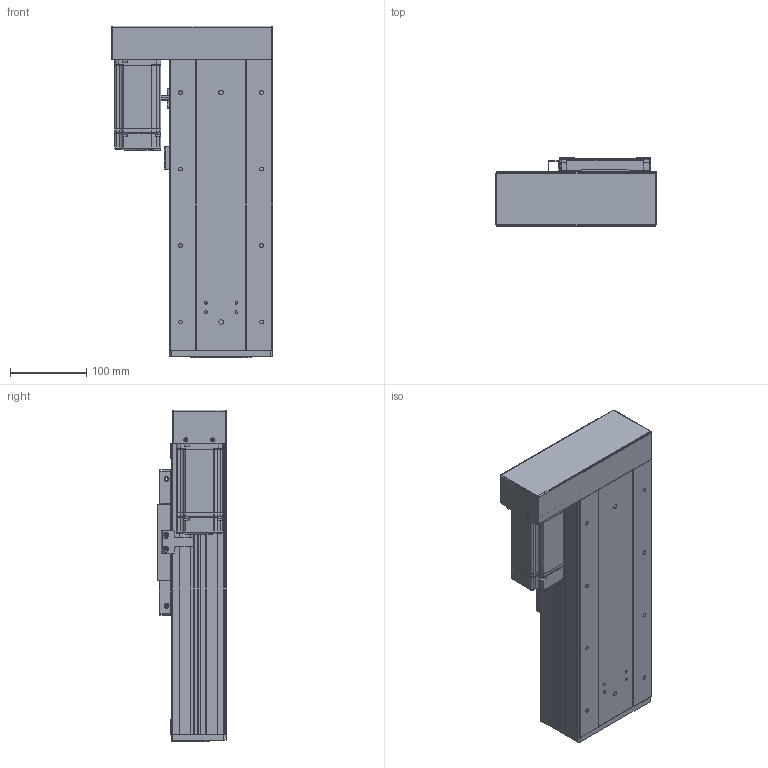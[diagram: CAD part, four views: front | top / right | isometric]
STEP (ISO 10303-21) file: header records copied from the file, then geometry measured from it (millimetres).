
FILE_DESCRIPTION (( 'STEP AP203' ), '1' );
FILE_NAME ('RY140F-L2020-300-LK.SLDASM_100.step', '2021-03-02T08:36:55', ( '盈信电脑' ), ( '东莞市道滘镇水果街19号' ), 'SwSTEP 2.0', 'SolidWorks 2012', '' );
FILE_SCHEMA (( 'CONFIG_CONTROL_DESIGN' ));
Products named in the file (19): RY140F-L2020-300-LK.SLDASM_100; RY140F-酘衵殏萇儂欶(400W); RY140F-左右折电机安装板(400W M5); RY140F-672覜茼んえ; RY140F-詩湍揤え; RY140F-转折折电机座（7001）; 侐源滅袉蝶; 覜茼ん672; RY140F-后盖板(铝件）; 侂狟400W侜督萇儂; 15; RY140F-詩湍幗謫粣; RY100F-詩湍揤踡謫; RY140F-直连型材铝滑块(16丝杆); RY140F-300-LK蛌殏詩湍_100; RY140F-300-LK倰第奻裔啣_100; RY140F-滅鳥奻裔; RY140F-直连型材铝滑块连接座; RY140F-300-LK倰第菁釱_100
Assembly tree (23 placements, depth 3):
  RY140F-L2020-300-LK.SLDASM_100
    RY140F-300-LK倰第菁釱_100
    RY140F-300-LK倰第奻裔啣_100  x2
    RY140F-300-LK蛌殏詩湍_100
    RY140F-直连型材铝滑块连接座
    RY140F-滅鳥奻裔
    RY140F-詩湍幗謫粣
    RY100F-詩湍揤踡謫
    RY140F-直连型材铝滑块(16丝杆)
    RY140F-后盖板(铝件）
    侂狟400W侜督萇儂
      15
    覜茼ん672
    RY140F-672覜茼んえ
    RY140F-詩湍揤え  x2
    侐源滅袉蝶  x4
    RY140F-转折折电机座（7001）
    RY140F-左右折电机安装板(400W M5)
    RY140F-酘衵殏萇儂欶(400W)
Bounding box: 211 x 91 x 434 mm (x, y, z)
Volume: 2321066.9 mm3; surface area: 811484.2 mm2
Topology: 22 solids, 22 shells, 1949 faces, 5325 edges, 3398 vertices
Faces by surface type: cylinder 936, plane 789, cone 194, bspline 26, torus 4
Entity records: 61779 total; most frequent: CARTESIAN_POINT 13183, DIRECTION 9822, ORIENTED_EDGE 9602, EDGE_CURVE 4801, AXIS2_PLACEMENT_3D 3501, VERTEX_POINT 3138, LINE 2820, VECTOR 2820
